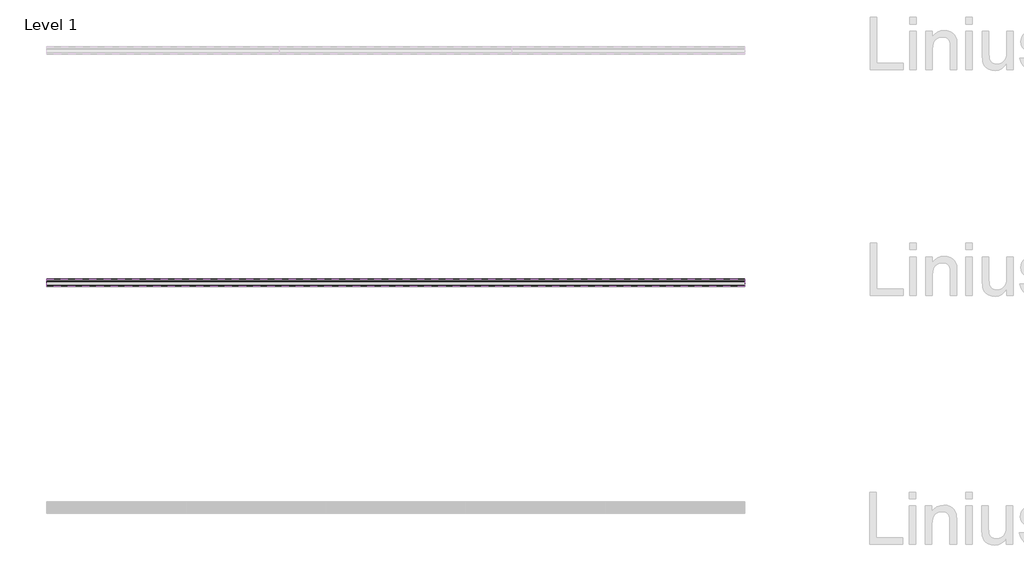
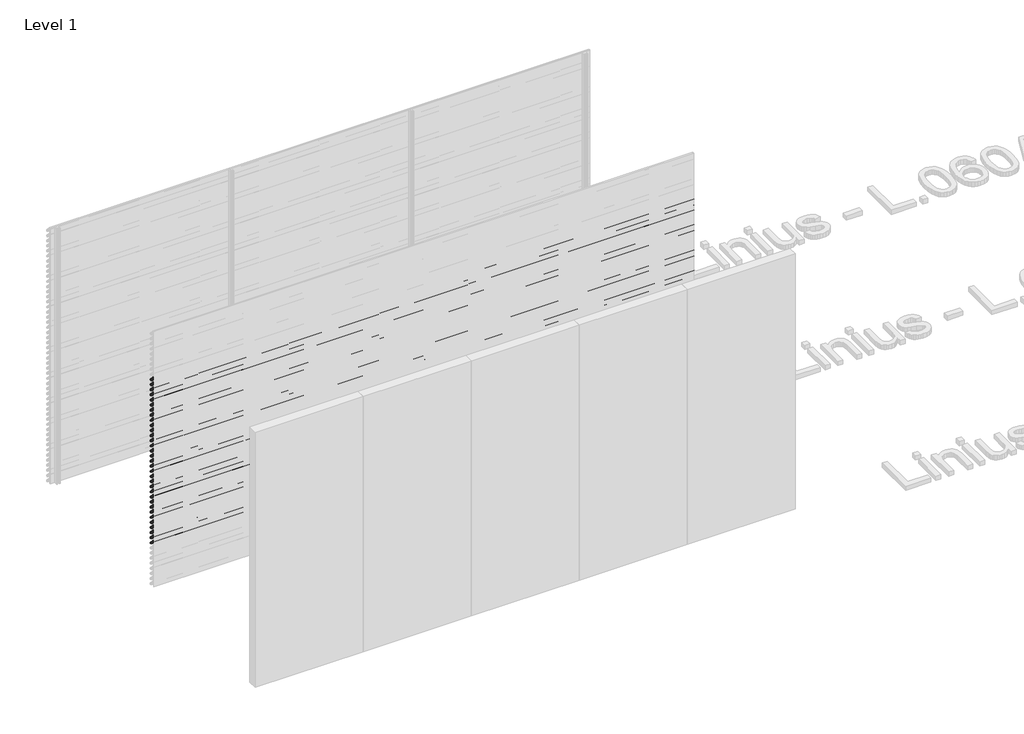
# One storey, part 113 of 153: 33 proxies.
"""IFC4 building model written with IfcOpenShell, lengths in millimetres."""

from ifc_helpers import new_model, si_unit, point, frame, frame_2d, origin, place, context, project, spatial, polyline, circle_curve, trimmed, segment, composite_curve, outline, extrude, element, save

model = new_model("IFC4")

# Units and contexts
model_context = context("Model", 3, world=origin())
ifc_project = project(units=[si_unit("LENGTHUNIT", "METRE", prefix="MILLI")], contexts=[model_context])

# Site, building, storey
site = spatial("IfcSite", under=ifc_project)
building = spatial("IfcBuilding", under=site)
storey = spatial("IfcBuildingStorey", under=building, Name="Level 1", Elevation=0.0)

# Proxies
placement = place(None, origin())
element("IfcBuildingElementProxy", 1, Name="Wall Sweeps", at=placement, inside=storey, context=model_context, shape_type="SweptSolid", body=[
    extrude(outline(composite_curve([segment(polyline([(56985.0540136, 2460.0), (56999.874191, 2458.7034025), (57049.0540136, 2405.0102749), (57049.0540136, 2393.6108187)]), True, "CONTINUOUS"), segment(trimmed(circle_curve(frame_2d((57045.7883652, 2393.897153)), 3.2781774), [point((57049.0540136, 2393.6108187))], [point((57046.4639442, 2390.6893438))], False, "CARTESIAN"), True, "CONTINUOUS"), segment(polyline([(57046.4639442, 2390.6893438), (57034.1895723, 2391.6282758), (56985.0540136, 2445.2730773), (56985.0540136, 2460.0)]), True, "CONTINUOUS")], self_intersect=False), holes=[composite_curve([segment(polyline([(56999.1621773, 2457.2599659), (56986.5540136, 2458.3630372), (56986.5540136, 2445.856213), (57034.8952036, 2393.0786805), (57046.3312542, 2392.2038762)]), True, "CONTINUOUS"), segment(trimmed(circle_curve(frame_2d((57045.7883652, 2393.897153)), 1.7781774), [point((57046.3312542, 2392.2038762))], [point((57047.5540136, 2393.6864389))], True, "CARTESIAN"), True, "CONTINUOUS"), segment(polyline([(57047.5540136, 2393.6864389), (57047.5540136, 2404.4271392), (56999.1621773, 2457.2599659)]), True, "CONTINUOUS")], self_intersect=False)]), frame((44966.6208097, 0.0, 0.0), z_axis=(1.0, 0.0, 0.0), x_axis=(0.0, 1.0, 0.0)), (0.0, 0.0, 1.0), 6000.0),
])
element("IfcBuildingElementProxy", 2, Name="Wall Sweeps", at=placement, inside=storey, context=model_context, shape_type="SweptSolid", body=[
    extrude(outline(composite_curve([segment(polyline([(56985.0540136, 2400.0), (56999.874191, 2398.7034025), (57049.0540136, 2345.0102749), (57049.0540136, 2333.6108187)]), True, "CONTINUOUS"), segment(trimmed(circle_curve(frame_2d((57045.7883652, 2333.897153)), 3.2781774), [point((57049.0540136, 2333.6108187))], [point((57046.4639442, 2330.6893438))], False, "CARTESIAN"), True, "CONTINUOUS"), segment(polyline([(57046.4639442, 2330.6893438), (57034.1895723, 2331.6282758), (56985.0540136, 2385.2730773), (56985.0540136, 2400.0)]), True, "CONTINUOUS")], self_intersect=False), holes=[composite_curve([segment(polyline([(56999.1621773, 2397.2599659), (56986.5540136, 2398.3630372), (56986.5540136, 2385.856213), (57034.8952036, 2333.0786805), (57046.3312542, 2332.2038762)]), True, "CONTINUOUS"), segment(trimmed(circle_curve(frame_2d((57045.7883652, 2333.897153)), 1.7781774), [point((57046.3312542, 2332.2038762))], [point((57047.5540136, 2333.6864389))], True, "CARTESIAN"), True, "CONTINUOUS"), segment(polyline([(57047.5540136, 2333.6864389), (57047.5540136, 2344.4271392), (56999.1621773, 2397.2599659)]), True, "CONTINUOUS")], self_intersect=False)]), frame((44966.6208097, 0.0, 0.0), z_axis=(1.0, 0.0, 0.0), x_axis=(0.0, 1.0, 0.0)), (0.0, 0.0, 1.0), 6000.0),
])
element("IfcBuildingElementProxy", 3, Name="Wall Sweeps", at=placement, inside=storey, context=model_context, shape_type="SweptSolid", body=[
    extrude(outline(composite_curve([segment(polyline([(56985.0540136, 2340.0), (56999.874191, 2338.7034025), (57049.0540136, 2285.0102749), (57049.0540136, 2273.6108187)]), True, "CONTINUOUS"), segment(trimmed(circle_curve(frame_2d((57045.7883652, 2273.897153)), 3.2781774), [point((57049.0540136, 2273.6108187))], [point((57046.4639442, 2270.6893438))], False, "CARTESIAN"), True, "CONTINUOUS"), segment(polyline([(57046.4639442, 2270.6893438), (57034.1895723, 2271.6282758), (56985.0540136, 2325.2730773), (56985.0540136, 2340.0)]), True, "CONTINUOUS")], self_intersect=False), holes=[composite_curve([segment(polyline([(56999.1621773, 2337.2599659), (56986.5540136, 2338.3630372), (56986.5540136, 2325.856213), (57034.8952036, 2273.0786805), (57046.3312542, 2272.2038762)]), True, "CONTINUOUS"), segment(trimmed(circle_curve(frame_2d((57045.7883652, 2273.897153)), 1.7781774), [point((57046.3312542, 2272.2038762))], [point((57047.5540136, 2273.6864389))], True, "CARTESIAN"), True, "CONTINUOUS"), segment(polyline([(57047.5540136, 2273.6864389), (57047.5540136, 2284.4271392), (56999.1621773, 2337.2599659)]), True, "CONTINUOUS")], self_intersect=False)]), frame((44966.6208097, 0.0, 0.0), z_axis=(1.0, 0.0, 0.0), x_axis=(0.0, 1.0, 0.0)), (0.0, 0.0, 1.0), 6000.0),
])
element("IfcBuildingElementProxy", 4, Name="Wall Sweeps", at=placement, inside=storey, context=model_context, shape_type="SweptSolid", body=[
    extrude(outline(composite_curve([segment(polyline([(56985.0540136, 2280.0), (56999.874191, 2278.7034025), (57049.0540136, 2225.0102749), (57049.0540136, 2213.6108187)]), True, "CONTINUOUS"), segment(trimmed(circle_curve(frame_2d((57045.7883652, 2213.897153)), 3.2781774), [point((57049.0540136, 2213.6108187))], [point((57046.4639442, 2210.6893438))], False, "CARTESIAN"), True, "CONTINUOUS"), segment(polyline([(57046.4639442, 2210.6893438), (57034.1895723, 2211.6282758), (56985.0540136, 2265.2730773), (56985.0540136, 2280.0)]), True, "CONTINUOUS")], self_intersect=False), holes=[composite_curve([segment(polyline([(56999.1621773, 2277.2599659), (56986.5540136, 2278.3630372), (56986.5540136, 2265.856213), (57034.8952036, 2213.0786805), (57046.3312542, 2212.2038762)]), True, "CONTINUOUS"), segment(trimmed(circle_curve(frame_2d((57045.7883652, 2213.897153)), 1.7781774), [point((57046.3312542, 2212.2038762))], [point((57047.5540136, 2213.6864389))], True, "CARTESIAN"), True, "CONTINUOUS"), segment(polyline([(57047.5540136, 2213.6864389), (57047.5540136, 2224.4271392), (56999.1621773, 2277.2599659)]), True, "CONTINUOUS")], self_intersect=False)]), frame((44966.6208097, 0.0, 0.0), z_axis=(1.0, 0.0, 0.0), x_axis=(0.0, 1.0, 0.0)), (0.0, 0.0, 1.0), 6000.0),
])
element("IfcBuildingElementProxy", 5, Name="Wall Sweeps", at=placement, inside=storey, context=model_context, shape_type="SweptSolid", body=[
    extrude(outline(composite_curve([segment(polyline([(56985.0540136, 2220.0), (56999.874191, 2218.7034025), (57049.0540136, 2165.0102749), (57049.0540136, 2153.6108187)]), True, "CONTINUOUS"), segment(trimmed(circle_curve(frame_2d((57045.7883652, 2153.897153)), 3.2781774), [point((57049.0540136, 2153.6108187))], [point((57046.4639442, 2150.6893438))], False, "CARTESIAN"), True, "CONTINUOUS"), segment(polyline([(57046.4639442, 2150.6893438), (57034.1895723, 2151.6282758), (56985.0540136, 2205.2730773), (56985.0540136, 2220.0)]), True, "CONTINUOUS")], self_intersect=False), holes=[composite_curve([segment(polyline([(56999.1621773, 2217.2599659), (56986.5540136, 2218.3630372), (56986.5540136, 2205.856213), (57034.8952036, 2153.0786805), (57046.3312542, 2152.2038762)]), True, "CONTINUOUS"), segment(trimmed(circle_curve(frame_2d((57045.7883652, 2153.897153)), 1.7781774), [point((57046.3312542, 2152.2038762))], [point((57047.5540136, 2153.6864389))], True, "CARTESIAN"), True, "CONTINUOUS"), segment(polyline([(57047.5540136, 2153.6864389), (57047.5540136, 2164.4271392), (56999.1621773, 2217.2599659)]), True, "CONTINUOUS")], self_intersect=False)]), frame((44966.6208097, 0.0, 0.0), z_axis=(1.0, 0.0, 0.0), x_axis=(0.0, 1.0, 0.0)), (0.0, 0.0, 1.0), 6000.0),
])
element("IfcBuildingElementProxy", 6, Name="Wall Sweeps", at=placement, inside=storey, context=model_context, shape_type="SweptSolid", body=[
    extrude(outline(composite_curve([segment(polyline([(56985.0540136, 2160.0), (56999.874191, 2158.7034025), (57049.0540136, 2105.0102749), (57049.0540136, 2093.6108187)]), True, "CONTINUOUS"), segment(trimmed(circle_curve(frame_2d((57045.7883652, 2093.897153)), 3.2781774), [point((57049.0540136, 2093.6108187))], [point((57046.4639442, 2090.6893438))], False, "CARTESIAN"), True, "CONTINUOUS"), segment(polyline([(57046.4639442, 2090.6893438), (57034.1895723, 2091.6282758), (56985.0540136, 2145.2730773), (56985.0540136, 2160.0)]), True, "CONTINUOUS")], self_intersect=False), holes=[composite_curve([segment(polyline([(56999.1621773, 2157.2599659), (56986.5540136, 2158.3630372), (56986.5540136, 2145.856213), (57034.8952036, 2093.0786805), (57046.3312542, 2092.2038762)]), True, "CONTINUOUS"), segment(trimmed(circle_curve(frame_2d((57045.7883652, 2093.897153)), 1.7781774), [point((57046.3312542, 2092.2038762))], [point((57047.5540136, 2093.6864389))], True, "CARTESIAN"), True, "CONTINUOUS"), segment(polyline([(57047.5540136, 2093.6864389), (57047.5540136, 2104.4271392), (56999.1621773, 2157.2599659)]), True, "CONTINUOUS")], self_intersect=False)]), frame((44966.6208097, 0.0, 0.0), z_axis=(1.0, 0.0, 0.0), x_axis=(0.0, 1.0, 0.0)), (0.0, 0.0, 1.0), 6000.0),
])
element("IfcBuildingElementProxy", 7, Name="Wall Sweeps", at=placement, inside=storey, context=model_context, shape_type="SweptSolid", body=[
    extrude(outline(composite_curve([segment(polyline([(56985.0540136, 2100.0), (56999.874191, 2098.7034025), (57049.0540136, 2045.0102749), (57049.0540136, 2033.6108187)]), True, "CONTINUOUS"), segment(trimmed(circle_curve(frame_2d((57045.7883652, 2033.897153)), 3.2781774), [point((57049.0540136, 2033.6108187))], [point((57046.4639442, 2030.6893438))], False, "CARTESIAN"), True, "CONTINUOUS"), segment(polyline([(57046.4639442, 2030.6893438), (57034.1895723, 2031.6282758), (56985.0540136, 2085.2730773), (56985.0540136, 2100.0)]), True, "CONTINUOUS")], self_intersect=False), holes=[composite_curve([segment(polyline([(56999.1621773, 2097.2599659), (56986.5540136, 2098.3630372), (56986.5540136, 2085.856213), (57034.8952036, 2033.0786805), (57046.3312542, 2032.2038762)]), True, "CONTINUOUS"), segment(trimmed(circle_curve(frame_2d((57045.7883652, 2033.897153)), 1.7781774), [point((57046.3312542, 2032.2038762))], [point((57047.5540136, 2033.6864389))], True, "CARTESIAN"), True, "CONTINUOUS"), segment(polyline([(57047.5540136, 2033.6864389), (57047.5540136, 2044.4271392), (56999.1621773, 2097.2599659)]), True, "CONTINUOUS")], self_intersect=False)]), frame((44966.6208097, 0.0, 0.0), z_axis=(1.0, 0.0, 0.0), x_axis=(0.0, 1.0, 0.0)), (0.0, 0.0, 1.0), 6000.0),
])
element("IfcBuildingElementProxy", 8, Name="Wall Sweeps", at=placement, inside=storey, context=model_context, shape_type="SweptSolid", body=[
    extrude(outline(composite_curve([segment(polyline([(56985.0540136, 2040.0), (56999.874191, 2038.7034025), (57049.0540136, 1985.0102749), (57049.0540136, 1973.6108187)]), True, "CONTINUOUS"), segment(trimmed(circle_curve(frame_2d((57045.7883652, 1973.897153)), 3.2781774), [point((57049.0540136, 1973.6108187))], [point((57046.4639442, 1970.6893438))], False, "CARTESIAN"), True, "CONTINUOUS"), segment(polyline([(57046.4639442, 1970.6893438), (57034.1895723, 1971.6282758), (56985.0540136, 2025.2730773), (56985.0540136, 2040.0)]), True, "CONTINUOUS")], self_intersect=False), holes=[composite_curve([segment(polyline([(56999.1621773, 2037.2599659), (56986.5540136, 2038.3630372), (56986.5540136, 2025.856213), (57034.8952036, 1973.0786805), (57046.3312542, 1972.2038762)]), True, "CONTINUOUS"), segment(trimmed(circle_curve(frame_2d((57045.7883652, 1973.897153)), 1.7781774), [point((57046.3312542, 1972.2038762))], [point((57047.5540136, 1973.6864389))], True, "CARTESIAN"), True, "CONTINUOUS"), segment(polyline([(57047.5540136, 1973.6864389), (57047.5540136, 1984.4271392), (56999.1621773, 2037.2599659)]), True, "CONTINUOUS")], self_intersect=False)]), frame((44966.6208097, 0.0, 0.0), z_axis=(1.0, 0.0, 0.0), x_axis=(0.0, 1.0, 0.0)), (0.0, 0.0, 1.0), 6000.0),
])
element("IfcBuildingElementProxy", 9, Name="Wall Sweeps", at=placement, inside=storey, context=model_context, shape_type="SweptSolid", body=[
    extrude(outline(composite_curve([segment(polyline([(56985.0540136, 1980.0), (56999.874191, 1978.7034025), (57049.0540136, 1925.0102749), (57049.0540136, 1913.6108187)]), True, "CONTINUOUS"), segment(trimmed(circle_curve(frame_2d((57045.7883652, 1913.897153)), 3.2781774), [point((57049.0540136, 1913.6108187))], [point((57046.4639442, 1910.6893438))], False, "CARTESIAN"), True, "CONTINUOUS"), segment(polyline([(57046.4639442, 1910.6893438), (57034.1895723, 1911.6282758), (56985.0540136, 1965.2730773), (56985.0540136, 1980.0)]), True, "CONTINUOUS")], self_intersect=False), holes=[composite_curve([segment(polyline([(56999.1621773, 1977.2599659), (56986.5540136, 1978.3630372), (56986.5540136, 1965.856213), (57034.8952036, 1913.0786805), (57046.3312542, 1912.2038762)]), True, "CONTINUOUS"), segment(trimmed(circle_curve(frame_2d((57045.7883652, 1913.897153)), 1.7781774), [point((57046.3312542, 1912.2038762))], [point((57047.5540136, 1913.6864389))], True, "CARTESIAN"), True, "CONTINUOUS"), segment(polyline([(57047.5540136, 1913.6864389), (57047.5540136, 1924.4271392), (56999.1621773, 1977.2599659)]), True, "CONTINUOUS")], self_intersect=False)]), frame((44966.6208097, 0.0, 0.0), z_axis=(1.0, 0.0, 0.0), x_axis=(0.0, 1.0, 0.0)), (0.0, 0.0, 1.0), 6000.0),
])
element("IfcBuildingElementProxy", 10, Name="Wall Sweeps", at=placement, inside=storey, context=model_context, shape_type="SweptSolid", body=[
    extrude(outline(composite_curve([segment(polyline([(56985.0540136, 1920.0), (56999.874191, 1918.7034025), (57049.0540136, 1865.0102749), (57049.0540136, 1853.6108187)]), True, "CONTINUOUS"), segment(trimmed(circle_curve(frame_2d((57045.7883652, 1853.897153)), 3.2781774), [point((57049.0540136, 1853.6108187))], [point((57046.4639442, 1850.6893438))], False, "CARTESIAN"), True, "CONTINUOUS"), segment(polyline([(57046.4639442, 1850.6893438), (57034.1895723, 1851.6282758), (56985.0540136, 1905.2730773), (56985.0540136, 1920.0)]), True, "CONTINUOUS")], self_intersect=False), holes=[composite_curve([segment(polyline([(56999.1621773, 1917.2599659), (56986.5540136, 1918.3630372), (56986.5540136, 1905.856213), (57034.8952036, 1853.0786805), (57046.3312542, 1852.2038762)]), True, "CONTINUOUS"), segment(trimmed(circle_curve(frame_2d((57045.7883652, 1853.897153)), 1.7781774), [point((57046.3312542, 1852.2038762))], [point((57047.5540136, 1853.6864389))], True, "CARTESIAN"), True, "CONTINUOUS"), segment(polyline([(57047.5540136, 1853.6864389), (57047.5540136, 1864.4271392), (56999.1621773, 1917.2599659)]), True, "CONTINUOUS")], self_intersect=False)]), frame((44966.6208097, 0.0, 0.0), z_axis=(1.0, 0.0, 0.0), x_axis=(0.0, 1.0, 0.0)), (0.0, 0.0, 1.0), 6000.0),
])
element("IfcBuildingElementProxy", 11, Name="Wall Sweeps", at=placement, inside=storey, context=model_context, shape_type="SweptSolid", body=[
    extrude(outline(composite_curve([segment(polyline([(56985.0540136, 1860.0), (56999.874191, 1858.7034025), (57049.0540136, 1805.0102749), (57049.0540136, 1793.6108187)]), True, "CONTINUOUS"), segment(trimmed(circle_curve(frame_2d((57045.7883652, 1793.897153)), 3.2781774), [point((57049.0540136, 1793.6108187))], [point((57046.4639442, 1790.6893438))], False, "CARTESIAN"), True, "CONTINUOUS"), segment(polyline([(57046.4639442, 1790.6893438), (57034.1895723, 1791.6282758), (56985.0540136, 1845.2730773), (56985.0540136, 1860.0)]), True, "CONTINUOUS")], self_intersect=False), holes=[composite_curve([segment(polyline([(56999.1621773, 1857.2599659), (56986.5540136, 1858.3630372), (56986.5540136, 1845.856213), (57034.8952036, 1793.0786805), (57046.3312542, 1792.2038762)]), True, "CONTINUOUS"), segment(trimmed(circle_curve(frame_2d((57045.7883652, 1793.897153)), 1.7781774), [point((57046.3312542, 1792.2038762))], [point((57047.5540136, 1793.6864389))], True, "CARTESIAN"), True, "CONTINUOUS"), segment(polyline([(57047.5540136, 1793.6864389), (57047.5540136, 1804.4271392), (56999.1621773, 1857.2599659)]), True, "CONTINUOUS")], self_intersect=False)]), frame((44966.6208097, 0.0, 0.0), z_axis=(1.0, 0.0, 0.0), x_axis=(0.0, 1.0, 0.0)), (0.0, 0.0, 1.0), 6000.0),
])
element("IfcBuildingElementProxy", 12, Name="Wall Sweeps", at=placement, inside=storey, context=model_context, shape_type="SweptSolid", body=[
    extrude(outline(composite_curve([segment(polyline([(56985.0540136, 1800.0), (56999.874191, 1798.7034025), (57049.0540136, 1745.0102749), (57049.0540136, 1733.6108187)]), True, "CONTINUOUS"), segment(trimmed(circle_curve(frame_2d((57045.7883652, 1733.897153)), 3.2781774), [point((57049.0540136, 1733.6108187))], [point((57046.4639442, 1730.6893438))], False, "CARTESIAN"), True, "CONTINUOUS"), segment(polyline([(57046.4639442, 1730.6893438), (57034.1895723, 1731.6282758), (56985.0540136, 1785.2730773), (56985.0540136, 1800.0)]), True, "CONTINUOUS")], self_intersect=False), holes=[composite_curve([segment(polyline([(56999.1621773, 1797.2599659), (56986.5540136, 1798.3630372), (56986.5540136, 1785.856213), (57034.8952036, 1733.0786805), (57046.3312542, 1732.2038762)]), True, "CONTINUOUS"), segment(trimmed(circle_curve(frame_2d((57045.7883652, 1733.897153)), 1.7781774), [point((57046.3312542, 1732.2038762))], [point((57047.5540136, 1733.6864389))], True, "CARTESIAN"), True, "CONTINUOUS"), segment(polyline([(57047.5540136, 1733.6864389), (57047.5540136, 1744.4271392), (56999.1621773, 1797.2599659)]), True, "CONTINUOUS")], self_intersect=False)]), frame((44966.6208097, 0.0, 0.0), z_axis=(1.0, 0.0, 0.0), x_axis=(0.0, 1.0, 0.0)), (0.0, 0.0, 1.0), 6000.0),
])
element("IfcBuildingElementProxy", 13, Name="Wall Sweeps", at=placement, inside=storey, context=model_context, shape_type="SweptSolid", body=[
    extrude(outline(composite_curve([segment(polyline([(56985.0540136, 1740.0), (56999.874191, 1738.7034025), (57049.0540136, 1685.0102749), (57049.0540136, 1673.6108187)]), True, "CONTINUOUS"), segment(trimmed(circle_curve(frame_2d((57045.7883652, 1673.897153)), 3.2781774), [point((57049.0540136, 1673.6108187))], [point((57046.4639442, 1670.6893438))], False, "CARTESIAN"), True, "CONTINUOUS"), segment(polyline([(57046.4639442, 1670.6893438), (57034.1895723, 1671.6282758), (56985.0540136, 1725.2730773), (56985.0540136, 1740.0)]), True, "CONTINUOUS")], self_intersect=False), holes=[composite_curve([segment(polyline([(56999.1621773, 1737.2599659), (56986.5540136, 1738.3630372), (56986.5540136, 1725.856213), (57034.8952036, 1673.0786805), (57046.3312542, 1672.2038762)]), True, "CONTINUOUS"), segment(trimmed(circle_curve(frame_2d((57045.7883652, 1673.897153)), 1.7781774), [point((57046.3312542, 1672.2038762))], [point((57047.5540136, 1673.6864389))], True, "CARTESIAN"), True, "CONTINUOUS"), segment(polyline([(57047.5540136, 1673.6864389), (57047.5540136, 1684.4271392), (56999.1621773, 1737.2599659)]), True, "CONTINUOUS")], self_intersect=False)]), frame((44966.6208097, 0.0, 0.0), z_axis=(1.0, 0.0, 0.0), x_axis=(0.0, 1.0, 0.0)), (0.0, 0.0, 1.0), 6000.0),
])
element("IfcBuildingElementProxy", 14, Name="Wall Sweeps", at=placement, inside=storey, context=model_context, shape_type="SweptSolid", body=[
    extrude(outline(composite_curve([segment(polyline([(56985.0540136, 1680.0), (56999.874191, 1678.7034025), (57049.0540136, 1625.0102749), (57049.0540136, 1613.6108187)]), True, "CONTINUOUS"), segment(trimmed(circle_curve(frame_2d((57045.7883652, 1613.897153)), 3.2781774), [point((57049.0540136, 1613.6108187))], [point((57046.4639442, 1610.6893438))], False, "CARTESIAN"), True, "CONTINUOUS"), segment(polyline([(57046.4639442, 1610.6893438), (57034.1895723, 1611.6282758), (56985.0540136, 1665.2730773), (56985.0540136, 1680.0)]), True, "CONTINUOUS")], self_intersect=False), holes=[composite_curve([segment(polyline([(56999.1621773, 1677.2599659), (56986.5540136, 1678.3630372), (56986.5540136, 1665.856213), (57034.8952036, 1613.0786805), (57046.3312542, 1612.2038762)]), True, "CONTINUOUS"), segment(trimmed(circle_curve(frame_2d((57045.7883652, 1613.897153)), 1.7781774), [point((57046.3312542, 1612.2038762))], [point((57047.5540136, 1613.6864389))], True, "CARTESIAN"), True, "CONTINUOUS"), segment(polyline([(57047.5540136, 1613.6864389), (57047.5540136, 1624.4271392), (56999.1621773, 1677.2599659)]), True, "CONTINUOUS")], self_intersect=False)]), frame((44966.6208097, 0.0, 0.0), z_axis=(1.0, 0.0, 0.0), x_axis=(0.0, 1.0, 0.0)), (0.0, 0.0, 1.0), 6000.0),
])
element("IfcBuildingElementProxy", 15, Name="Wall Sweeps", at=placement, inside=storey, context=model_context, shape_type="SweptSolid", body=[
    extrude(outline(composite_curve([segment(polyline([(56985.0540136, 1620.0), (56999.874191, 1618.7034025), (57049.0540136, 1565.0102749), (57049.0540136, 1553.6108187)]), True, "CONTINUOUS"), segment(trimmed(circle_curve(frame_2d((57045.7883652, 1553.897153)), 3.2781774), [point((57049.0540136, 1553.6108187))], [point((57046.4639442, 1550.6893438))], False, "CARTESIAN"), True, "CONTINUOUS"), segment(polyline([(57046.4639442, 1550.6893438), (57034.1895723, 1551.6282758), (56985.0540136, 1605.2730773), (56985.0540136, 1620.0)]), True, "CONTINUOUS")], self_intersect=False), holes=[composite_curve([segment(polyline([(56999.1621773, 1617.2599659), (56986.5540136, 1618.3630372), (56986.5540136, 1605.856213), (57034.8952036, 1553.0786805), (57046.3312542, 1552.2038762)]), True, "CONTINUOUS"), segment(trimmed(circle_curve(frame_2d((57045.7883652, 1553.897153)), 1.7781774), [point((57046.3312542, 1552.2038762))], [point((57047.5540136, 1553.6864389))], True, "CARTESIAN"), True, "CONTINUOUS"), segment(polyline([(57047.5540136, 1553.6864389), (57047.5540136, 1564.4271392), (56999.1621773, 1617.2599659)]), True, "CONTINUOUS")], self_intersect=False)]), frame((44966.6208097, 0.0, 0.0), z_axis=(1.0, 0.0, 0.0), x_axis=(0.0, 1.0, 0.0)), (0.0, 0.0, 1.0), 6000.0),
])
element("IfcBuildingElementProxy", 16, Name="Wall Sweeps", at=placement, inside=storey, context=model_context, shape_type="SweptSolid", body=[
    extrude(outline(composite_curve([segment(polyline([(56985.0540136, 1560.0), (56999.874191, 1558.7034025), (57049.0540136, 1505.0102749), (57049.0540136, 1493.6108187)]), True, "CONTINUOUS"), segment(trimmed(circle_curve(frame_2d((57045.7883652, 1493.897153)), 3.2781774), [point((57049.0540136, 1493.6108187))], [point((57046.4639442, 1490.6893438))], False, "CARTESIAN"), True, "CONTINUOUS"), segment(polyline([(57046.4639442, 1490.6893438), (57034.1895723, 1491.6282758), (56985.0540136, 1545.2730773), (56985.0540136, 1560.0)]), True, "CONTINUOUS")], self_intersect=False), holes=[composite_curve([segment(polyline([(56999.1621773, 1557.2599659), (56986.5540136, 1558.3630372), (56986.5540136, 1545.856213), (57034.8952036, 1493.0786805), (57046.3312542, 1492.2038762)]), True, "CONTINUOUS"), segment(trimmed(circle_curve(frame_2d((57045.7883652, 1493.897153)), 1.7781774), [point((57046.3312542, 1492.2038762))], [point((57047.5540136, 1493.6864389))], True, "CARTESIAN"), True, "CONTINUOUS"), segment(polyline([(57047.5540136, 1493.6864389), (57047.5540136, 1504.4271392), (56999.1621773, 1557.2599659)]), True, "CONTINUOUS")], self_intersect=False)]), frame((44966.6208097, 0.0, 0.0), z_axis=(1.0, 0.0, 0.0), x_axis=(0.0, 1.0, 0.0)), (0.0, 0.0, 1.0), 6000.0),
])
element("IfcBuildingElementProxy", 17, Name="Wall Sweeps", at=placement, inside=storey, context=model_context, shape_type="SweptSolid", body=[
    extrude(outline(composite_curve([segment(polyline([(56985.0540136, 1500.0), (56999.874191, 1498.7034025), (57049.0540136, 1445.0102749), (57049.0540136, 1433.6108187)]), True, "CONTINUOUS"), segment(trimmed(circle_curve(frame_2d((57045.7883652, 1433.897153)), 3.2781774), [point((57049.0540136, 1433.6108187))], [point((57046.4639442, 1430.6893438))], False, "CARTESIAN"), True, "CONTINUOUS"), segment(polyline([(57046.4639442, 1430.6893438), (57034.1895723, 1431.6282758), (56985.0540136, 1485.2730773), (56985.0540136, 1500.0)]), True, "CONTINUOUS")], self_intersect=False), holes=[composite_curve([segment(polyline([(56999.1621773, 1497.2599659), (56986.5540136, 1498.3630372), (56986.5540136, 1485.856213), (57034.8952036, 1433.0786805), (57046.3312542, 1432.2038762)]), True, "CONTINUOUS"), segment(trimmed(circle_curve(frame_2d((57045.7883652, 1433.897153)), 1.7781774), [point((57046.3312542, 1432.2038762))], [point((57047.5540136, 1433.6864389))], True, "CARTESIAN"), True, "CONTINUOUS"), segment(polyline([(57047.5540136, 1433.6864389), (57047.5540136, 1444.4271392), (56999.1621773, 1497.2599659)]), True, "CONTINUOUS")], self_intersect=False)]), frame((44966.6208097, 0.0, 0.0), z_axis=(1.0, 0.0, 0.0), x_axis=(0.0, 1.0, 0.0)), (0.0, 0.0, 1.0), 6000.0),
])
element("IfcBuildingElementProxy", 18, Name="Wall Sweeps", at=placement, inside=storey, context=model_context, shape_type="SweptSolid", body=[
    extrude(outline(composite_curve([segment(polyline([(56985.0540136, 1440.0), (56999.874191, 1438.7034025), (57049.0540136, 1385.0102749), (57049.0540136, 1373.6108187)]), True, "CONTINUOUS"), segment(trimmed(circle_curve(frame_2d((57045.7883652, 1373.897153)), 3.2781774), [point((57049.0540136, 1373.6108187))], [point((57046.4639442, 1370.6893438))], False, "CARTESIAN"), True, "CONTINUOUS"), segment(polyline([(57046.4639442, 1370.6893438), (57034.1895723, 1371.6282758), (56985.0540136, 1425.2730773), (56985.0540136, 1440.0)]), True, "CONTINUOUS")], self_intersect=False), holes=[composite_curve([segment(polyline([(56999.1621773, 1437.2599659), (56986.5540136, 1438.3630372), (56986.5540136, 1425.856213), (57034.8952036, 1373.0786805), (57046.3312542, 1372.2038762)]), True, "CONTINUOUS"), segment(trimmed(circle_curve(frame_2d((57045.7883652, 1373.897153)), 1.7781774), [point((57046.3312542, 1372.2038762))], [point((57047.5540136, 1373.6864389))], True, "CARTESIAN"), True, "CONTINUOUS"), segment(polyline([(57047.5540136, 1373.6864389), (57047.5540136, 1384.4271392), (56999.1621773, 1437.2599659)]), True, "CONTINUOUS")], self_intersect=False)]), frame((44966.6208097, 0.0, 0.0), z_axis=(1.0, 0.0, 0.0), x_axis=(0.0, 1.0, 0.0)), (0.0, 0.0, 1.0), 6000.0),
])
element("IfcBuildingElementProxy", 19, Name="Wall Sweeps", at=placement, inside=storey, context=model_context, shape_type="SweptSolid", body=[
    extrude(outline(composite_curve([segment(polyline([(56985.0540136, 1380.0), (56999.874191, 1378.7034025), (57049.0540136, 1325.0102749), (57049.0540136, 1313.6108187)]), True, "CONTINUOUS"), segment(trimmed(circle_curve(frame_2d((57045.7883652, 1313.897153)), 3.2781774), [point((57049.0540136, 1313.6108187))], [point((57046.4639442, 1310.6893438))], False, "CARTESIAN"), True, "CONTINUOUS"), segment(polyline([(57046.4639442, 1310.6893438), (57034.1895723, 1311.6282758), (56985.0540136, 1365.2730773), (56985.0540136, 1380.0)]), True, "CONTINUOUS")], self_intersect=False), holes=[composite_curve([segment(polyline([(56999.1621773, 1377.2599659), (56986.5540136, 1378.3630372), (56986.5540136, 1365.856213), (57034.8952036, 1313.0786805), (57046.3312542, 1312.2038762)]), True, "CONTINUOUS"), segment(trimmed(circle_curve(frame_2d((57045.7883652, 1313.897153)), 1.7781774), [point((57046.3312542, 1312.2038762))], [point((57047.5540136, 1313.6864389))], True, "CARTESIAN"), True, "CONTINUOUS"), segment(polyline([(57047.5540136, 1313.6864389), (57047.5540136, 1324.4271392), (56999.1621773, 1377.2599659)]), True, "CONTINUOUS")], self_intersect=False)]), frame((44966.6208097, 0.0, 0.0), z_axis=(1.0, 0.0, 0.0), x_axis=(0.0, 1.0, 0.0)), (0.0, 0.0, 1.0), 6000.0),
])
element("IfcBuildingElementProxy", 20, Name="Wall Sweeps", at=placement, inside=storey, context=model_context, shape_type="SweptSolid", body=[
    extrude(outline(composite_curve([segment(polyline([(56985.0540136, 1320.0), (56999.874191, 1318.7034025), (57049.0540136, 1265.0102749), (57049.0540136, 1253.6108187)]), True, "CONTINUOUS"), segment(trimmed(circle_curve(frame_2d((57045.7883652, 1253.897153)), 3.2781774), [point((57049.0540136, 1253.6108187))], [point((57046.4639442, 1250.6893438))], False, "CARTESIAN"), True, "CONTINUOUS"), segment(polyline([(57046.4639442, 1250.6893438), (57034.1895723, 1251.6282758), (56985.0540136, 1305.2730773), (56985.0540136, 1320.0)]), True, "CONTINUOUS")], self_intersect=False), holes=[composite_curve([segment(polyline([(56999.1621773, 1317.2599659), (56986.5540136, 1318.3630372), (56986.5540136, 1305.856213), (57034.8952036, 1253.0786805), (57046.3312542, 1252.2038762)]), True, "CONTINUOUS"), segment(trimmed(circle_curve(frame_2d((57045.7883652, 1253.897153)), 1.7781774), [point((57046.3312542, 1252.2038762))], [point((57047.5540136, 1253.6864389))], True, "CARTESIAN"), True, "CONTINUOUS"), segment(polyline([(57047.5540136, 1253.6864389), (57047.5540136, 1264.4271392), (56999.1621773, 1317.2599659)]), True, "CONTINUOUS")], self_intersect=False)]), frame((44966.6208097, 0.0, 0.0), z_axis=(1.0, 0.0, 0.0), x_axis=(0.0, 1.0, 0.0)), (0.0, 0.0, 1.0), 6000.0),
])
element("IfcBuildingElementProxy", 21, Name="Wall Sweeps", at=placement, inside=storey, context=model_context, shape_type="SweptSolid", body=[
    extrude(outline(composite_curve([segment(polyline([(56985.0540136, 1260.0), (56999.874191, 1258.7034025), (57049.0540136, 1205.0102749), (57049.0540136, 1193.6108187)]), True, "CONTINUOUS"), segment(trimmed(circle_curve(frame_2d((57045.7883652, 1193.897153)), 3.2781774), [point((57049.0540136, 1193.6108187))], [point((57046.4639442, 1190.6893438))], False, "CARTESIAN"), True, "CONTINUOUS"), segment(polyline([(57046.4639442, 1190.6893438), (57034.1895723, 1191.6282758), (56985.0540136, 1245.2730773), (56985.0540136, 1260.0)]), True, "CONTINUOUS")], self_intersect=False), holes=[composite_curve([segment(polyline([(56999.1621773, 1257.2599659), (56986.5540136, 1258.3630372), (56986.5540136, 1245.856213), (57034.8952036, 1193.0786805), (57046.3312542, 1192.2038762)]), True, "CONTINUOUS"), segment(trimmed(circle_curve(frame_2d((57045.7883652, 1193.897153)), 1.7781774), [point((57046.3312542, 1192.2038762))], [point((57047.5540136, 1193.6864389))], True, "CARTESIAN"), True, "CONTINUOUS"), segment(polyline([(57047.5540136, 1193.6864389), (57047.5540136, 1204.4271392), (56999.1621773, 1257.2599659)]), True, "CONTINUOUS")], self_intersect=False)]), frame((44966.6208097, 0.0, 0.0), z_axis=(1.0, 0.0, 0.0), x_axis=(0.0, 1.0, 0.0)), (0.0, 0.0, 1.0), 6000.0),
])
element("IfcBuildingElementProxy", 22, Name="Wall Sweeps", at=placement, inside=storey, context=model_context, shape_type="SweptSolid", body=[
    extrude(outline(composite_curve([segment(polyline([(56985.0540136, 1200.0), (56999.874191, 1198.7034025), (57049.0540136, 1145.0102749), (57049.0540136, 1133.6108187)]), True, "CONTINUOUS"), segment(trimmed(circle_curve(frame_2d((57045.7883652, 1133.897153)), 3.2781774), [point((57049.0540136, 1133.6108187))], [point((57046.4639442, 1130.6893438))], False, "CARTESIAN"), True, "CONTINUOUS"), segment(polyline([(57046.4639442, 1130.6893438), (57034.1895723, 1131.6282758), (56985.0540136, 1185.2730773), (56985.0540136, 1200.0)]), True, "CONTINUOUS")], self_intersect=False), holes=[composite_curve([segment(polyline([(56999.1621773, 1197.2599659), (56986.5540136, 1198.3630372), (56986.5540136, 1185.856213), (57034.8952036, 1133.0786805), (57046.3312542, 1132.2038762)]), True, "CONTINUOUS"), segment(trimmed(circle_curve(frame_2d((57045.7883652, 1133.897153)), 1.7781774), [point((57046.3312542, 1132.2038762))], [point((57047.5540136, 1133.6864389))], True, "CARTESIAN"), True, "CONTINUOUS"), segment(polyline([(57047.5540136, 1133.6864389), (57047.5540136, 1144.4271392), (56999.1621773, 1197.2599659)]), True, "CONTINUOUS")], self_intersect=False)]), frame((44966.6208097, 0.0, 0.0), z_axis=(1.0, 0.0, 0.0), x_axis=(0.0, 1.0, 0.0)), (0.0, 0.0, 1.0), 6000.0),
])
element("IfcBuildingElementProxy", 23, Name="Wall Sweeps", at=placement, inside=storey, context=model_context, shape_type="SweptSolid", body=[
    extrude(outline(composite_curve([segment(polyline([(56985.0540136, 1140.0), (56999.874191, 1138.7034025), (57049.0540136, 1085.0102749), (57049.0540136, 1073.6108187)]), True, "CONTINUOUS"), segment(trimmed(circle_curve(frame_2d((57045.7883652, 1073.897153)), 3.2781774), [point((57049.0540136, 1073.6108187))], [point((57046.4639442, 1070.6893438))], False, "CARTESIAN"), True, "CONTINUOUS"), segment(polyline([(57046.4639442, 1070.6893438), (57034.1895723, 1071.6282758), (56985.0540136, 1125.2730773), (56985.0540136, 1140.0)]), True, "CONTINUOUS")], self_intersect=False), holes=[composite_curve([segment(polyline([(56999.1621773, 1137.2599659), (56986.5540136, 1138.3630372), (56986.5540136, 1125.856213), (57034.8952036, 1073.0786805), (57046.3312542, 1072.2038762)]), True, "CONTINUOUS"), segment(trimmed(circle_curve(frame_2d((57045.7883652, 1073.897153)), 1.7781774), [point((57046.3312542, 1072.2038762))], [point((57047.5540136, 1073.6864389))], True, "CARTESIAN"), True, "CONTINUOUS"), segment(polyline([(57047.5540136, 1073.6864389), (57047.5540136, 1084.4271392), (56999.1621773, 1137.2599659)]), True, "CONTINUOUS")], self_intersect=False)]), frame((44966.6208097, 0.0, 0.0), z_axis=(1.0, 0.0, 0.0), x_axis=(0.0, 1.0, 0.0)), (0.0, 0.0, 1.0), 6000.0),
])
element("IfcBuildingElementProxy", 24, Name="Wall Sweeps", at=placement, inside=storey, context=model_context, shape_type="SweptSolid", body=[
    extrude(outline(composite_curve([segment(polyline([(56985.0540136, 1080.0), (56999.874191, 1078.7034025), (57049.0540136, 1025.0102749), (57049.0540136, 1013.6108187)]), True, "CONTINUOUS"), segment(trimmed(circle_curve(frame_2d((57045.7883652, 1013.897153)), 3.2781774), [point((57049.0540136, 1013.6108187))], [point((57046.4639442, 1010.6893438))], False, "CARTESIAN"), True, "CONTINUOUS"), segment(polyline([(57046.4639442, 1010.6893438), (57034.1895723, 1011.6282758), (56985.0540136, 1065.2730773), (56985.0540136, 1080.0)]), True, "CONTINUOUS")], self_intersect=False), holes=[composite_curve([segment(polyline([(56999.1621773, 1077.2599659), (56986.5540136, 1078.3630372), (56986.5540136, 1065.856213), (57034.8952036, 1013.0786805), (57046.3312542, 1012.2038762)]), True, "CONTINUOUS"), segment(trimmed(circle_curve(frame_2d((57045.7883652, 1013.897153)), 1.7781774), [point((57046.3312542, 1012.2038762))], [point((57047.5540136, 1013.6864389))], True, "CARTESIAN"), True, "CONTINUOUS"), segment(polyline([(57047.5540136, 1013.6864389), (57047.5540136, 1024.4271392), (56999.1621773, 1077.2599659)]), True, "CONTINUOUS")], self_intersect=False)]), frame((44966.6208097, 0.0, 0.0), z_axis=(1.0, 0.0, 0.0), x_axis=(0.0, 1.0, 0.0)), (0.0, 0.0, 1.0), 6000.0),
])
element("IfcBuildingElementProxy", 25, Name="Wall Sweeps", at=placement, inside=storey, context=model_context, shape_type="SweptSolid", body=[
    extrude(outline(composite_curve([segment(polyline([(56985.0540136, 1020.0), (56999.874191, 1018.7034025), (57049.0540136, 965.0102749), (57049.0540136, 953.6108187)]), True, "CONTINUOUS"), segment(trimmed(circle_curve(frame_2d((57045.7883652, 953.897153)), 3.2781774), [point((57049.0540136, 953.6108187))], [point((57046.4639442, 950.6893438))], False, "CARTESIAN"), True, "CONTINUOUS"), segment(polyline([(57046.4639442, 950.6893438), (57034.1895723, 951.6282758), (56985.0540136, 1005.2730773), (56985.0540136, 1020.0)]), True, "CONTINUOUS")], self_intersect=False), holes=[composite_curve([segment(polyline([(56999.1621773, 1017.2599659), (56986.5540136, 1018.3630372), (56986.5540136, 1005.856213), (57034.8952036, 953.0786805), (57046.3312542, 952.2038762)]), True, "CONTINUOUS"), segment(trimmed(circle_curve(frame_2d((57045.7883652, 953.897153)), 1.7781774), [point((57046.3312542, 952.2038762))], [point((57047.5540136, 953.6864389))], True, "CARTESIAN"), True, "CONTINUOUS"), segment(polyline([(57047.5540136, 953.6864389), (57047.5540136, 964.4271392), (56999.1621773, 1017.2599659)]), True, "CONTINUOUS")], self_intersect=False)]), frame((44966.6208097, 0.0, 0.0), z_axis=(1.0, 0.0, 0.0), x_axis=(0.0, 1.0, 0.0)), (0.0, 0.0, 1.0), 6000.0),
])
element("IfcBuildingElementProxy", 26, Name="Wall Sweeps", at=placement, inside=storey, context=model_context, shape_type="SweptSolid", body=[
    extrude(outline(composite_curve([segment(polyline([(56985.0540136, 960.0), (56999.874191, 958.7034025), (57049.0540136, 905.0102749), (57049.0540136, 893.6108187)]), True, "CONTINUOUS"), segment(trimmed(circle_curve(frame_2d((57045.7883652, 893.897153)), 3.2781774), [point((57049.0540136, 893.6108187))], [point((57046.4639442, 890.6893438))], False, "CARTESIAN"), True, "CONTINUOUS"), segment(polyline([(57046.4639442, 890.6893438), (57034.1895723, 891.6282758), (56985.0540136, 945.2730773), (56985.0540136, 960.0)]), True, "CONTINUOUS")], self_intersect=False), holes=[composite_curve([segment(polyline([(56999.1621773, 957.2599659), (56986.5540136, 958.3630372), (56986.5540136, 945.856213), (57034.8952036, 893.0786805), (57046.3312542, 892.2038762)]), True, "CONTINUOUS"), segment(trimmed(circle_curve(frame_2d((57045.7883652, 893.897153)), 1.7781774), [point((57046.3312542, 892.2038762))], [point((57047.5540136, 893.6864389))], True, "CARTESIAN"), True, "CONTINUOUS"), segment(polyline([(57047.5540136, 893.6864389), (57047.5540136, 904.4271392), (56999.1621773, 957.2599659)]), True, "CONTINUOUS")], self_intersect=False)]), frame((44966.6208097, 0.0, 0.0), z_axis=(1.0, 0.0, 0.0), x_axis=(0.0, 1.0, 0.0)), (0.0, 0.0, 1.0), 6000.0),
])
element("IfcBuildingElementProxy", 27, Name="Wall Sweeps", at=placement, inside=storey, context=model_context, shape_type="SweptSolid", body=[
    extrude(outline(composite_curve([segment(polyline([(56985.0540136, 900.0), (56999.874191, 898.7034025), (57049.0540136, 845.0102749), (57049.0540136, 833.6108187)]), True, "CONTINUOUS"), segment(trimmed(circle_curve(frame_2d((57045.7883652, 833.897153)), 3.2781774), [point((57049.0540136, 833.6108187))], [point((57046.4639442, 830.6893438))], False, "CARTESIAN"), True, "CONTINUOUS"), segment(polyline([(57046.4639442, 830.6893438), (57034.1895723, 831.6282758), (56985.0540136, 885.2730773), (56985.0540136, 900.0)]), True, "CONTINUOUS")], self_intersect=False), holes=[composite_curve([segment(polyline([(56999.1621773, 897.2599659), (56986.5540136, 898.3630372), (56986.5540136, 885.856213), (57034.8952036, 833.0786805), (57046.3312542, 832.2038762)]), True, "CONTINUOUS"), segment(trimmed(circle_curve(frame_2d((57045.7883652, 833.897153)), 1.7781774), [point((57046.3312542, 832.2038762))], [point((57047.5540136, 833.6864389))], True, "CARTESIAN"), True, "CONTINUOUS"), segment(polyline([(57047.5540136, 833.6864389), (57047.5540136, 844.4271392), (56999.1621773, 897.2599659)]), True, "CONTINUOUS")], self_intersect=False)]), frame((44966.6208097, 0.0, 0.0), z_axis=(1.0, 0.0, 0.0), x_axis=(0.0, 1.0, 0.0)), (0.0, 0.0, 1.0), 6000.0),
])
element("IfcBuildingElementProxy", 28, Name="Wall Sweeps", at=placement, inside=storey, context=model_context, shape_type="SweptSolid", body=[
    extrude(outline(composite_curve([segment(polyline([(56985.0540136, 840.0), (56999.874191, 838.7034025), (57049.0540136, 785.0102749), (57049.0540136, 773.6108187)]), True, "CONTINUOUS"), segment(trimmed(circle_curve(frame_2d((57045.7883652, 773.897153)), 3.2781774), [point((57049.0540136, 773.6108187))], [point((57046.4639442, 770.6893438))], False, "CARTESIAN"), True, "CONTINUOUS"), segment(polyline([(57046.4639442, 770.6893438), (57034.1895723, 771.6282758), (56985.0540136, 825.2730773), (56985.0540136, 840.0)]), True, "CONTINUOUS")], self_intersect=False), holes=[composite_curve([segment(polyline([(56999.1621773, 837.2599659), (56986.5540136, 838.3630372), (56986.5540136, 825.856213), (57034.8952036, 773.0786805), (57046.3312542, 772.2038762)]), True, "CONTINUOUS"), segment(trimmed(circle_curve(frame_2d((57045.7883652, 773.897153)), 1.7781774), [point((57046.3312542, 772.2038762))], [point((57047.5540136, 773.6864389))], True, "CARTESIAN"), True, "CONTINUOUS"), segment(polyline([(57047.5540136, 773.6864389), (57047.5540136, 784.4271392), (56999.1621773, 837.2599659)]), True, "CONTINUOUS")], self_intersect=False)]), frame((44966.6208097, 0.0, 0.0), z_axis=(1.0, 0.0, 0.0), x_axis=(0.0, 1.0, 0.0)), (0.0, 0.0, 1.0), 6000.0),
])
element("IfcBuildingElementProxy", 29, Name="Wall Sweeps", at=placement, inside=storey, context=model_context, shape_type="SweptSolid", body=[
    extrude(outline(composite_curve([segment(polyline([(56985.0540136, 780.0), (56999.874191, 778.7034025), (57049.0540136, 725.0102749), (57049.0540136, 713.6108187)]), True, "CONTINUOUS"), segment(trimmed(circle_curve(frame_2d((57045.7883652, 713.897153)), 3.2781774), [point((57049.0540136, 713.6108187))], [point((57046.4639442, 710.6893438))], False, "CARTESIAN"), True, "CONTINUOUS"), segment(polyline([(57046.4639442, 710.6893438), (57034.1895723, 711.6282758), (56985.0540136, 765.2730773), (56985.0540136, 780.0)]), True, "CONTINUOUS")], self_intersect=False), holes=[composite_curve([segment(polyline([(56999.1621773, 777.2599659), (56986.5540136, 778.3630372), (56986.5540136, 765.856213), (57034.8952036, 713.0786805), (57046.3312542, 712.2038762)]), True, "CONTINUOUS"), segment(trimmed(circle_curve(frame_2d((57045.7883652, 713.897153)), 1.7781774), [point((57046.3312542, 712.2038762))], [point((57047.5540136, 713.6864389))], True, "CARTESIAN"), True, "CONTINUOUS"), segment(polyline([(57047.5540136, 713.6864389), (57047.5540136, 724.4271392), (56999.1621773, 777.2599659)]), True, "CONTINUOUS")], self_intersect=False)]), frame((44966.6208097, 0.0, 0.0), z_axis=(1.0, 0.0, 0.0), x_axis=(0.0, 1.0, 0.0)), (0.0, 0.0, 1.0), 6000.0),
])
element("IfcBuildingElementProxy", 30, Name="Wall Sweeps", at=placement, inside=storey, context=model_context, shape_type="SweptSolid", body=[
    extrude(outline(composite_curve([segment(polyline([(56985.0540136, 720.0), (56999.874191, 718.7034025), (57049.0540136, 665.0102749), (57049.0540136, 653.6108187)]), True, "CONTINUOUS"), segment(trimmed(circle_curve(frame_2d((57045.7883652, 653.897153)), 3.2781774), [point((57049.0540136, 653.6108187))], [point((57046.4639442, 650.6893438))], False, "CARTESIAN"), True, "CONTINUOUS"), segment(polyline([(57046.4639442, 650.6893438), (57034.1895723, 651.6282758), (56985.0540136, 705.2730773), (56985.0540136, 720.0)]), True, "CONTINUOUS")], self_intersect=False), holes=[composite_curve([segment(polyline([(56999.1621773, 717.2599659), (56986.5540136, 718.3630372), (56986.5540136, 705.856213), (57034.8952036, 653.0786805), (57046.3312542, 652.2038762)]), True, "CONTINUOUS"), segment(trimmed(circle_curve(frame_2d((57045.7883652, 653.897153)), 1.7781774), [point((57046.3312542, 652.2038762))], [point((57047.5540136, 653.6864389))], True, "CARTESIAN"), True, "CONTINUOUS"), segment(polyline([(57047.5540136, 653.6864389), (57047.5540136, 664.4271392), (56999.1621773, 717.2599659)]), True, "CONTINUOUS")], self_intersect=False)]), frame((44966.6208097, 0.0, 0.0), z_axis=(1.0, 0.0, 0.0), x_axis=(0.0, 1.0, 0.0)), (0.0, 0.0, 1.0), 6000.0),
])
element("IfcBuildingElementProxy", 31, Name="Wall Sweeps", at=placement, inside=storey, context=model_context, shape_type="SweptSolid", body=[
    extrude(outline(composite_curve([segment(polyline([(56985.0540136, 660.0), (56999.874191, 658.7034025), (57049.0540136, 605.0102749), (57049.0540136, 593.6108187)]), True, "CONTINUOUS"), segment(trimmed(circle_curve(frame_2d((57045.7883652, 593.897153)), 3.2781774), [point((57049.0540136, 593.6108187))], [point((57046.4639442, 590.6893438))], False, "CARTESIAN"), True, "CONTINUOUS"), segment(polyline([(57046.4639442, 590.6893438), (57034.1895723, 591.6282758), (56985.0540136, 645.2730773), (56985.0540136, 660.0)]), True, "CONTINUOUS")], self_intersect=False), holes=[composite_curve([segment(polyline([(56999.1621773, 657.2599659), (56986.5540136, 658.3630372), (56986.5540136, 645.856213), (57034.8952036, 593.0786805), (57046.3312542, 592.2038762)]), True, "CONTINUOUS"), segment(trimmed(circle_curve(frame_2d((57045.7883652, 593.897153)), 1.7781774), [point((57046.3312542, 592.2038762))], [point((57047.5540136, 593.6864389))], True, "CARTESIAN"), True, "CONTINUOUS"), segment(polyline([(57047.5540136, 593.6864389), (57047.5540136, 604.4271392), (56999.1621773, 657.2599659)]), True, "CONTINUOUS")], self_intersect=False)]), frame((44966.6208097, 0.0, 0.0), z_axis=(1.0, 0.0, 0.0), x_axis=(0.0, 1.0, 0.0)), (0.0, 0.0, 1.0), 6000.0),
])
element("IfcBuildingElementProxy", 32, Name="Wall Sweeps", at=placement, inside=storey, context=model_context, shape_type="SweptSolid", body=[
    extrude(outline(composite_curve([segment(polyline([(56985.0540136, 600.0), (56999.874191, 598.7034025), (57049.0540136, 545.0102749), (57049.0540136, 533.6108187)]), True, "CONTINUOUS"), segment(trimmed(circle_curve(frame_2d((57045.7883652, 533.897153)), 3.2781774), [point((57049.0540136, 533.6108187))], [point((57046.4639442, 530.6893438))], False, "CARTESIAN"), True, "CONTINUOUS"), segment(polyline([(57046.4639442, 530.6893438), (57034.1895723, 531.6282758), (56985.0540136, 585.2730773), (56985.0540136, 600.0)]), True, "CONTINUOUS")], self_intersect=False), holes=[composite_curve([segment(polyline([(56999.1621773, 597.2599659), (56986.5540136, 598.3630372), (56986.5540136, 585.856213), (57034.8952036, 533.0786805), (57046.3312542, 532.2038762)]), True, "CONTINUOUS"), segment(trimmed(circle_curve(frame_2d((57045.7883652, 533.897153)), 1.7781774), [point((57046.3312542, 532.2038762))], [point((57047.5540136, 533.6864389))], True, "CARTESIAN"), True, "CONTINUOUS"), segment(polyline([(57047.5540136, 533.6864389), (57047.5540136, 544.4271392), (56999.1621773, 597.2599659)]), True, "CONTINUOUS")], self_intersect=False)]), frame((44966.6208097, 0.0, 0.0), z_axis=(1.0, 0.0, 0.0), x_axis=(0.0, 1.0, 0.0)), (0.0, 0.0, 1.0), 6000.0),
])
element("IfcBuildingElementProxy", 33, Name="Wall Sweeps", at=placement, inside=storey, context=model_context, shape_type="SweptSolid", body=[
    extrude(outline(composite_curve([segment(polyline([(56985.0540136, 540.0), (56999.874191, 538.7034025), (57049.0540136, 485.0102749), (57049.0540136, 473.6108187)]), True, "CONTINUOUS"), segment(trimmed(circle_curve(frame_2d((57045.7883652, 473.897153)), 3.2781774), [point((57049.0540136, 473.6108187))], [point((57046.4639442, 470.6893438))], False, "CARTESIAN"), True, "CONTINUOUS"), segment(polyline([(57046.4639442, 470.6893438), (57034.1895723, 471.6282758), (56985.0540136, 525.2730773), (56985.0540136, 540.0)]), True, "CONTINUOUS")], self_intersect=False), holes=[composite_curve([segment(polyline([(56999.1621773, 537.2599659), (56986.5540136, 538.3630372), (56986.5540136, 525.856213), (57034.8952036, 473.0786805), (57046.3312542, 472.2038762)]), True, "CONTINUOUS"), segment(trimmed(circle_curve(frame_2d((57045.7883652, 473.897153)), 1.7781774), [point((57046.3312542, 472.2038762))], [point((57047.5540136, 473.6864389))], True, "CARTESIAN"), True, "CONTINUOUS"), segment(polyline([(57047.5540136, 473.6864389), (57047.5540136, 484.4271392), (56999.1621773, 537.2599659)]), True, "CONTINUOUS")], self_intersect=False)]), frame((44966.6208097, 0.0, 0.0), z_axis=(1.0, 0.0, 0.0), x_axis=(0.0, 1.0, 0.0)), (0.0, 0.0, 1.0), 6000.0),
])

save(model, "model.ifc")
